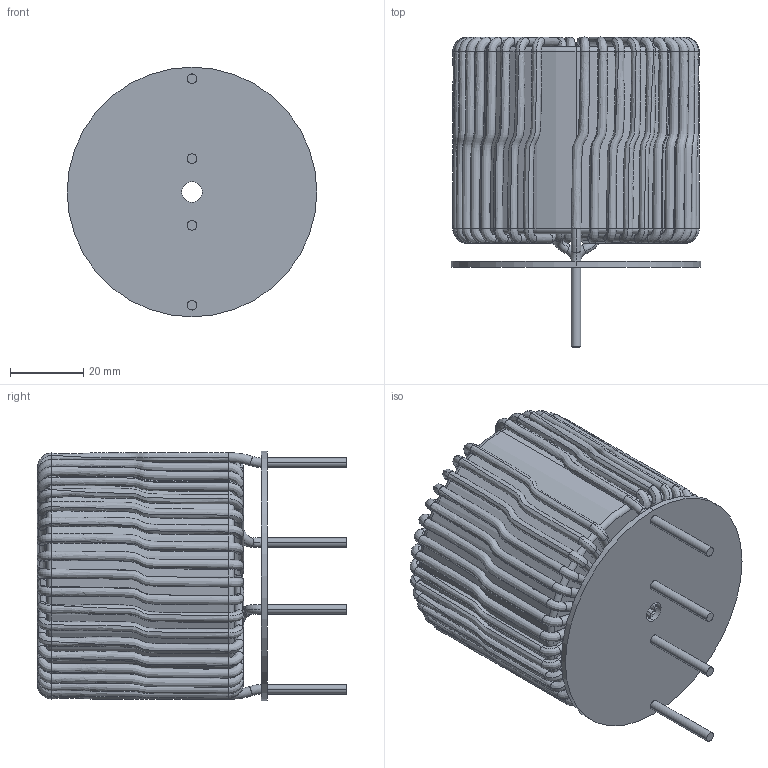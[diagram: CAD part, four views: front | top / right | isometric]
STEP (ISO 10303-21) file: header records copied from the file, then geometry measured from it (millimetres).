
FILE_DESCRIPTION (( 'STEP AP214' ), '1' );
FILE_NAME ('MCI467-331M-40AH.STEP', '2020-08-06T19:01:35', ( '' ), ( '' ), 'SwSTEP 2.0', 'SolidWorks 2015', '' );
FILE_SCHEMA (( 'AUTOMOTIVE_DESIGN' ));
Length unit declared in the file: millimetre
Products named in the file (1): MCI467-331M-40AH
Bounding box: 68.1 x 84.45 x 68.1 mm (x, y, z)
Volume: 143295.6 mm3; surface area: 70055 mm2
Topology: 2 solids, 2 shells, 648 faces, 1320 edges, 680 vertices
Faces by surface type: bspline 596, torus 28, cylinder 16, plane 8
Entity records: 82897 total; most frequent: CARTESIAN_POINT 65489, ORIENTED_EDGE 2640, DIRECTION 1538, EDGE_CURVE 1320, AXIS2_PLACEMENT_3D 761, CIRCLE 708, VERTEX_POINT 680, EDGE_LOOP 660
